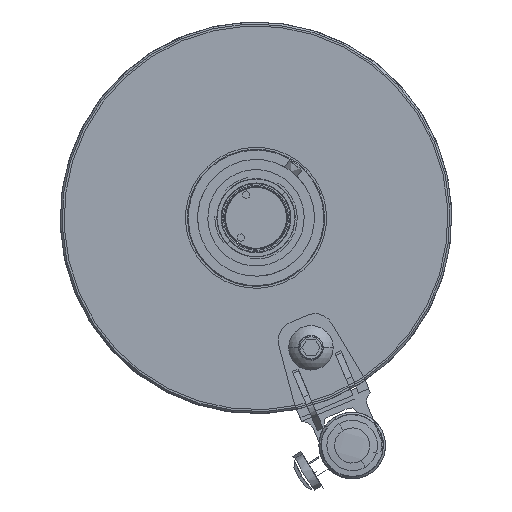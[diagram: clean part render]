
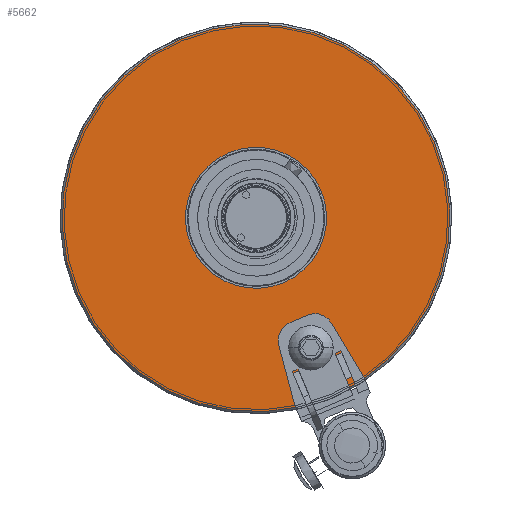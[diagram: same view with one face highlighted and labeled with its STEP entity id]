
A CAD part, front view. The second image highlights one B-rep face of the part: STEP entity #5662.
In plain terms, the highlighted planar face has unit normal (0, -1, 0).
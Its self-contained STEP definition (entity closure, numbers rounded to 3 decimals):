
#35 = CARTESIAN_POINT ( 'NONE',  ( 0., -1821.4, 0. ) ) ;
#47 = AXIS2_PLACEMENT_3D ( 'NONE', #279, #4402, #5329 ) ;
#68 = CARTESIAN_POINT ( 'NONE',  ( 22.798, -1821.4, 9.633 ) ) ;
#76 = EDGE_LOOP ( 'NONE', ( #557, #5658 ) ) ;
#84 = DIRECTION ( 'NONE',  ( 0.921, 0., 0.389 ) ) ;
#279 = CARTESIAN_POINT ( 'NONE',  ( 7.006, -1821.4, -16.581 ) ) ;
#314 = CARTESIAN_POINT ( 'NONE',  ( 5.578, -1821.4, -17.184 ) ) ;
#557 = ORIENTED_EDGE ( 'NONE', *, *, #6469, .T. ) ;
#567 = ORIENTED_EDGE ( 'NONE', *, *, #2257, .T. ) ;
#770 = CIRCLE ( 'NONE', #5568, 24.75 ) ;
#834 = EDGE_CURVE ( 'NONE', #2510, #2855, #3110, .T. ) ;
#1548 = EDGE_CURVE ( 'NONE', #2855, #2510, #770, .T. ) ;
#1689 = DIRECTION ( 'NONE',  ( 0.921, 0., 0.389 ) ) ;
#1717 = DIRECTION ( 'NONE',  ( 0., 1., 0. ) ) ;
#1762 = AXIS2_PLACEMENT_3D ( 'NONE', #5512, #2962, #5009 ) ;
#1897 = FACE_OUTER_BOUND ( 'NONE', #3500, .T. ) ;
#1933 = AXIS2_PLACEMENT_3D ( 'NONE', #35, #2081, #3108 ) ;
#1961 = DIRECTION ( 'NONE',  ( 0., 1., 0. ) ) ;
#2006 = CARTESIAN_POINT ( 'NONE',  ( 8.434, -1821.4, -15.977 ) ) ;
#2081 = DIRECTION ( 'NONE',  ( 0., -1., 0. ) ) ;
#2134 = CARTESIAN_POINT ( 'NONE',  ( 0., -1821.4, 0. ) ) ;
#2193 = CARTESIAN_POINT ( 'NONE',  ( 7.006, -1821.4, -16.581 ) ) ;
#2257 = EDGE_CURVE ( 'NONE', #4966, #6512, #5142, .T. ) ;
#2290 = CARTESIAN_POINT ( 'NONE',  ( -8.29, -1821.4, -3.503 ) ) ;
#2456 = CARTESIAN_POINT ( 'NONE',  ( 0., -1821.4, 0. ) ) ;
#2510 = VERTEX_POINT ( 'NONE', #4349 ) ;
#2628 = CIRCLE ( 'NONE', #6150, 1.55 ) ;
#2778 = VERTEX_POINT ( 'NONE', #2006 ) ;
#2855 = VERTEX_POINT ( 'NONE', #68 ) ;
#2935 = CIRCLE ( 'NONE', #47, 1.55 ) ;
#2962 = DIRECTION ( 'NONE',  ( 0., -1., 0. ) ) ;
#3108 = DIRECTION ( 'NONE',  ( 0.921, 0., 0.389 ) ) ;
#3110 = CIRCLE ( 'NONE', #1933, 24.75 ) ;
#3123 = ORIENTED_EDGE ( 'NONE', *, *, #6454, .T. ) ;
#3300 = ORIENTED_EDGE ( 'NONE', *, *, #1548, .T. ) ;
#3468 = PLANE ( 'NONE',  #1762 ) ;
#3500 = EDGE_LOOP ( 'NONE', ( #3938, #3300 ) ) ;
#3672 = EDGE_LOOP ( 'NONE', ( #567, #3123 ) ) ;
#3750 = AXIS2_PLACEMENT_3D ( 'NONE', #4676, #6263, #84 ) ;
#3938 = ORIENTED_EDGE ( 'NONE', *, *, #834, .T. ) ;
#3939 = FACE_BOUND ( 'NONE', #3672, .T. ) ;
#4011 = AXIS2_PLACEMENT_3D ( 'NONE', #2456, #1961, #1689 ) ;
#4143 = VERTEX_POINT ( 'NONE', #314 ) ;
#4349 = CARTESIAN_POINT ( 'NONE',  ( -22.798, -1821.4, -9.633 ) ) ;
#4402 = DIRECTION ( 'NONE',  ( 0., 1., 0. ) ) ;
#4676 = CARTESIAN_POINT ( 'NONE',  ( 0., -1821.4, 0. ) ) ;
#4715 = DIRECTION ( 'NONE',  ( 0., -1., 0. ) ) ;
#4966 = VERTEX_POINT ( 'NONE', #5819 ) ;
#5009 = DIRECTION ( 'NONE',  ( 0.921, 0., 0.389 ) ) ;
#5142 = CIRCLE ( 'NONE', #3750, 9. ) ;
#5179 = CIRCLE ( 'NONE', #4011, 9. ) ;
#5329 = DIRECTION ( 'NONE',  ( 0.921, 0., 0.389 ) ) ;
#5512 = CARTESIAN_POINT ( 'NONE',  ( -4.865, -1821.4, 11.514 ) ) ;
#5568 = AXIS2_PLACEMENT_3D ( 'NONE', #2134, #4715, #6247 ) ;
#5658 = ORIENTED_EDGE ( 'NONE', *, *, #6611, .T. ) ;
#5662 = ADVANCED_FACE ( 'NONE', ( #5912, #1897, #3939 ), #3468, .T. ) ;
#5800 = DIRECTION ( 'NONE',  ( 0.921, 0., 0.389 ) ) ;
#5819 = CARTESIAN_POINT ( 'NONE',  ( 8.29, -1821.4, 3.503 ) ) ;
#5912 = FACE_BOUND ( 'NONE', #76, .T. ) ;
#6150 = AXIS2_PLACEMENT_3D ( 'NONE', #2193, #1717, #5800 ) ;
#6247 = DIRECTION ( 'NONE',  ( 0.921, 0., 0.389 ) ) ;
#6263 = DIRECTION ( 'NONE',  ( 0., 1., 0. ) ) ;
#6454 = EDGE_CURVE ( 'NONE', #6512, #4966, #5179, .T. ) ;
#6469 = EDGE_CURVE ( 'NONE', #2778, #4143, #2628, .T. ) ;
#6512 = VERTEX_POINT ( 'NONE', #2290 ) ;
#6611 = EDGE_CURVE ( 'NONE', #4143, #2778, #2935, .T. ) ;
